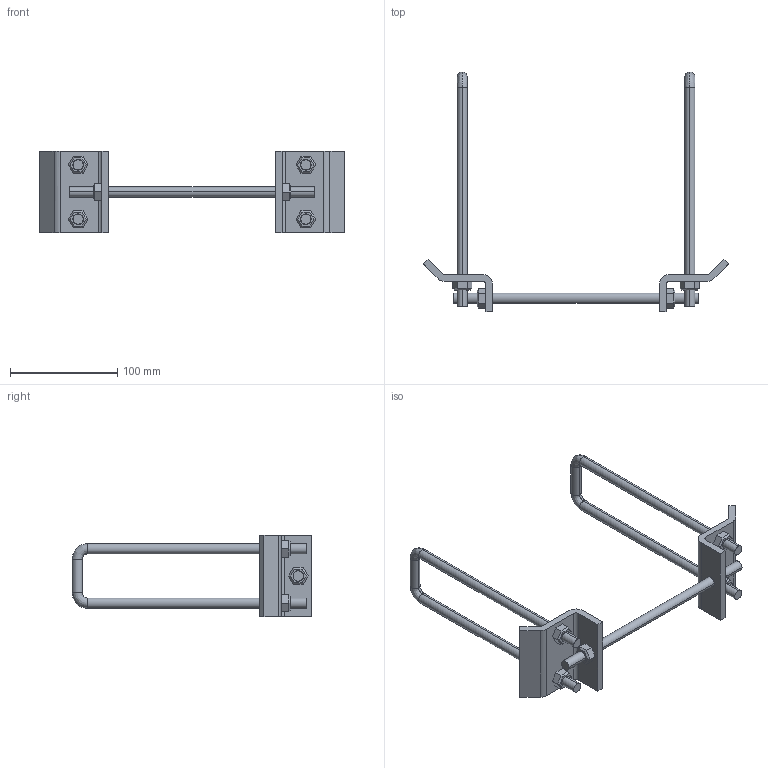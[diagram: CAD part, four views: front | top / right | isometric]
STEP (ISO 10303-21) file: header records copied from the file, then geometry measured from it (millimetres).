
FILE_DESCRIPTION(('TurboCAD Mac Pro'),'Build 980');
FILE_NAME('P2868B-9.stp',' ',(''),(''),'ACIS Interop','IMSI','TurboCAD Mac Pro BY IMSI, INCORPORATED');
FILE_SCHEMA(('automotive_design'));
Length unit declared in the file: inch
Products named in the file (11): 1; 2; 3; 4; 5; 6; 7; 8; 9; 10; 11
Bounding box: 285.2 x 223.86 x 76.2 mm (x, y, z)
Volume: 178841.9 mm3; surface area: 74549.9 mm2
Topology: 11 solids, 11 shells, 176 faces, 410 edges, 256 vertices
Faces by surface type: plane 110, bspline 40, cylinder 26
Entity records: 9060 total; most frequent: CARTESIAN_POINT 1837, ORIENTED_EDGE 820, DIRECTION 692, STYLED_ITEM 533, PRESENTATION_STYLE_ASSIGNMENT 533, COLOUR_RGB 533, EDGE_CURVE 410, CURVE_STYLE 346
